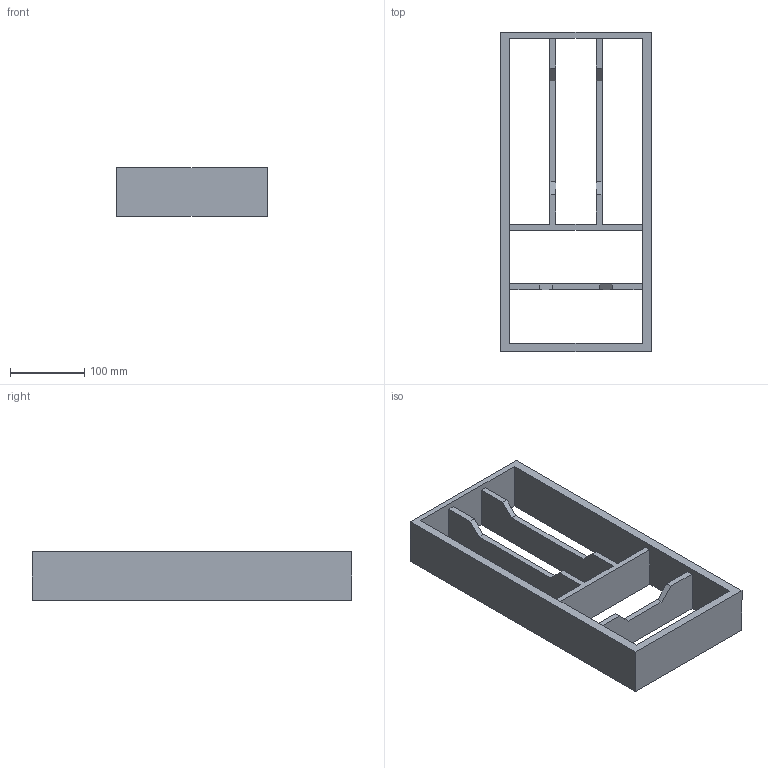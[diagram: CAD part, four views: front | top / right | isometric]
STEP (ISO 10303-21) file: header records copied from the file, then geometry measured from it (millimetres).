
FILE_DESCRIPTION (( 'STEP AP214' ), '1' );
FILE_NAME ('Vario Besteck fix NL450_B300_19mm_Buche.step', '2010-11-08T07:33:11', ( 'grass' ), ( '' ), 'SwSTEP 2.0', 'SolidWorks 2010', '' );
FILE_SCHEMA (( 'AUTOMOTIVE_DESIGN' ));
Length unit declared in the file: millimetre
Products named in the file (1): Vario Besteck fix NL450_B300_19mm_Buche
Bounding box: 202 x 429 x 65 mm (x, y, z)
Volume: 1226774 mm3; surface area: 280638 mm2
Topology: 1 solids, 1 shells, 34 faces, 108 edges, 72 vertices
Faces by surface type: plane 34
Entity records: 1226 total; most frequent: ORIENTED_EDGE 216, CARTESIAN_POINT 215, DIRECTION 178, LINE 108, VECTOR 108, EDGE_CURVE 108, VERTEX_POINT 72, EDGE_LOOP 40
